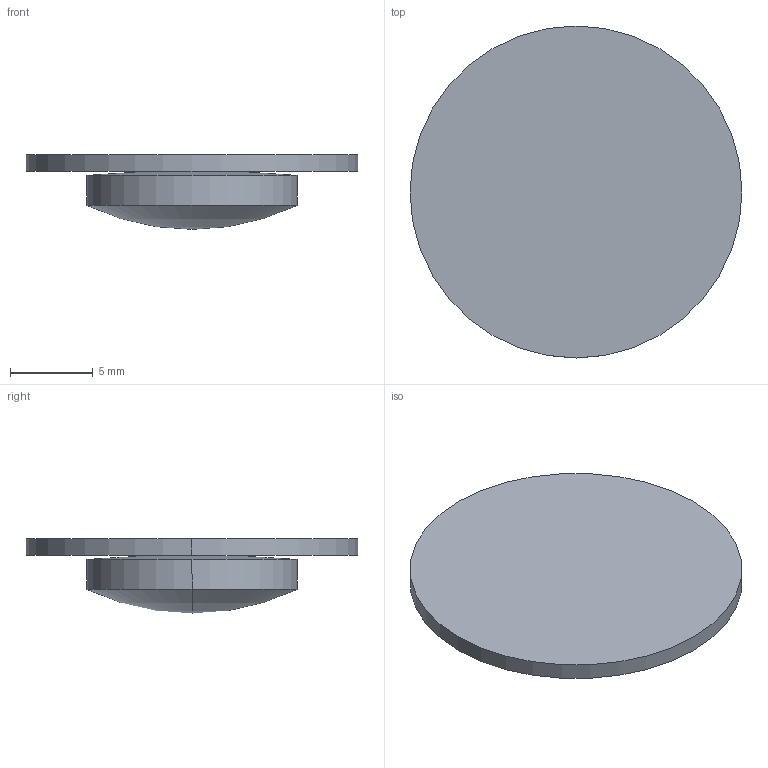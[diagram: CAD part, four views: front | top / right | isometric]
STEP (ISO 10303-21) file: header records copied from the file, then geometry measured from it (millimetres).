
FILE_DESCRIPTION(('STEP AP214'),'1');
FILE_NAME('LLU-13-25.STEP','2020-03-09T17:42:06',(' '),(' '),'Spatial InterOp 3D',' ',' ');
FILE_SCHEMA(('AUTOMOTIVE_DESIGN { 1 0 10303 214 1 1 1 1 }'));
Length unit declared in the file: millimetre
Products named in the file (1): 1
Bounding box: 20 x 20 x 4.5 mm (x, y, z)
Volume: 651.1 mm3; surface area: 1022.9 mm2
Topology: 2 solids, 2 shells, 10 faces, 20 edges, 10 vertices
Faces by surface type: sphere 4, cylinder 4, plane 2
Entity records: 255 total; most frequent: DIRECTION 52, CARTESIAN_POINT 38, ORIENTED_EDGE 32, AXIS2_PLACEMENT_3D 24, EDGE_CURVE 16, CIRCLE 12, ADVANCED_FACE 10, FACE_OUTER_BOUND 10
